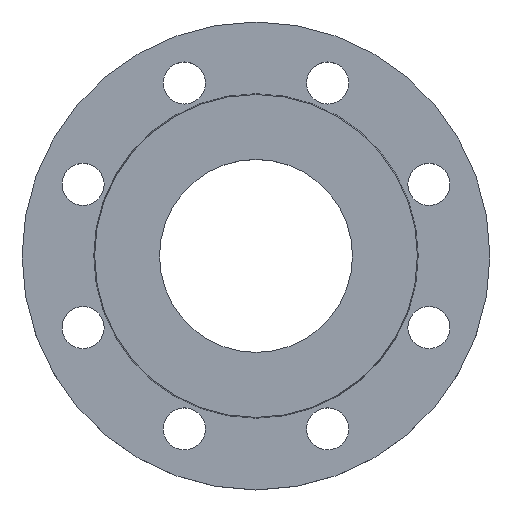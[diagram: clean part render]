
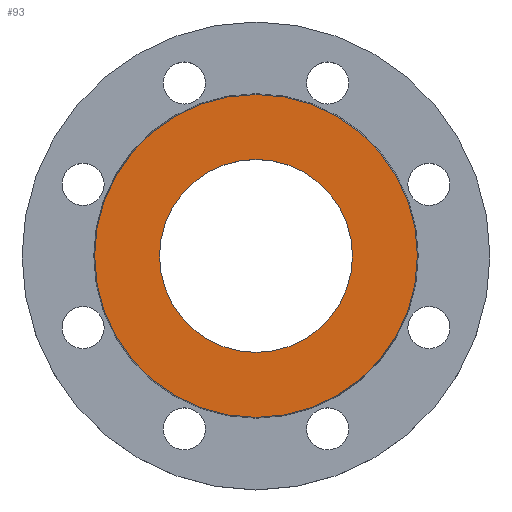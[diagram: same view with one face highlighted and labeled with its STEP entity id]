
A CAD part, top view. The second image highlights one B-rep face of the part: STEP entity #93.
In plain terms, the highlighted planar face has unit normal (0, 0, 1).
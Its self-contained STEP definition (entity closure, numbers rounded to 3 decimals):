
#30 = AXIS2_PLACEMENT_3D ( 'NONE', #469, #510, #450 ) ;
#31 = CIRCLE ( 'NONE', #30, 41.25 ) ;
#39 = AXIS2_PLACEMENT_3D ( 'NONE', #677, #437, #447 ) ;
#52 = CIRCLE ( 'NONE', #61, 69. ) ;
#61 = AXIS2_PLACEMENT_3D ( 'NONE', #304, #305, #306 ) ;
#93 = ADVANCED_FACE ( 'NONE', ( #487, #489 ), #452, .T. ) ;
#121 = EDGE_CURVE ( 'NONE', #945, #698, #31, .T. ) ;
#129 = CARTESIAN_POINT ( 'NONE',  ( 41.25, 0., 0. ) ) ;
#178 = DIRECTION ( 'NONE',  ( -1., 0., 0. ) ) ;
#179 = DIRECTION ( 'NONE',  ( 0., 0., -1. ) ) ;
#180 = CARTESIAN_POINT ( 'NONE',  ( 0., 0., 0. ) ) ;
#217 = CARTESIAN_POINT ( 'NONE',  ( -41.25, 0., 0. ) ) ;
#220 = CARTESIAN_POINT ( 'NONE',  ( -69., 0., 0. ) ) ;
#229 = CARTESIAN_POINT ( 'NONE',  ( 69., 0., 0. ) ) ;
#252 = CIRCLE ( 'NONE', #255, 69. ) ;
#255 = AXIS2_PLACEMENT_3D ( 'NONE', #180, #179, #178 ) ;
#304 = CARTESIAN_POINT ( 'NONE',  ( 0., 0., 0. ) ) ;
#305 = DIRECTION ( 'NONE',  ( 0., 0., -1. ) ) ;
#306 = DIRECTION ( 'NONE',  ( -1., 0., 0. ) ) ;
#398 = DIRECTION ( 'NONE',  ( 0., 0., 1. ) ) ;
#399 = DIRECTION ( 'NONE',  ( 1., 0., 0. ) ) ;
#403 = CARTESIAN_POINT ( 'NONE',  ( 0., 0., 0. ) ) ;
#437 = DIRECTION ( 'NONE',  ( 0., 0., 1. ) ) ;
#447 = DIRECTION ( 'NONE',  ( 1., 0., 0. ) ) ;
#450 = DIRECTION ( 'NONE',  ( 1., 0., 0. ) ) ;
#452 = PLANE ( 'NONE',  #39 ) ;
#468 = EDGE_CURVE ( 'NONE', #698, #945, #553, .T. ) ;
#469 = CARTESIAN_POINT ( 'NONE',  ( 0., 0., 0. ) ) ;
#487 = FACE_BOUND ( 'NONE', #939, .T. ) ;
#489 = FACE_OUTER_BOUND ( 'NONE', #822, .T. ) ;
#510 = DIRECTION ( 'NONE',  ( 0., 0., 1. ) ) ;
#553 = CIRCLE ( 'NONE', #583, 41.25 ) ;
#583 = AXIS2_PLACEMENT_3D ( 'NONE', #403, #398, #399 ) ;
#677 = CARTESIAN_POINT ( 'NONE',  ( 0., 0., 0. ) ) ;
#683 = EDGE_CURVE ( 'NONE', #748, #730, #52, .T. ) ;
#698 = VERTEX_POINT ( 'NONE', #217 ) ;
#730 = VERTEX_POINT ( 'NONE', #229 ) ;
#748 = VERTEX_POINT ( 'NONE', #220 ) ;
#791 = EDGE_CURVE ( 'NONE', #730, #748, #252, .T. ) ;
#822 = EDGE_LOOP ( 'NONE', ( #855, #857 ) ) ;
#853 = ORIENTED_EDGE ( 'NONE', *, *, #121, .F. ) ;
#854 = ORIENTED_EDGE ( 'NONE', *, *, #468, .F. ) ;
#855 = ORIENTED_EDGE ( 'NONE', *, *, #683, .F. ) ;
#857 = ORIENTED_EDGE ( 'NONE', *, *, #791, .F. ) ;
#939 = EDGE_LOOP ( 'NONE', ( #853, #854 ) ) ;
#945 = VERTEX_POINT ( 'NONE', #129 ) ;
